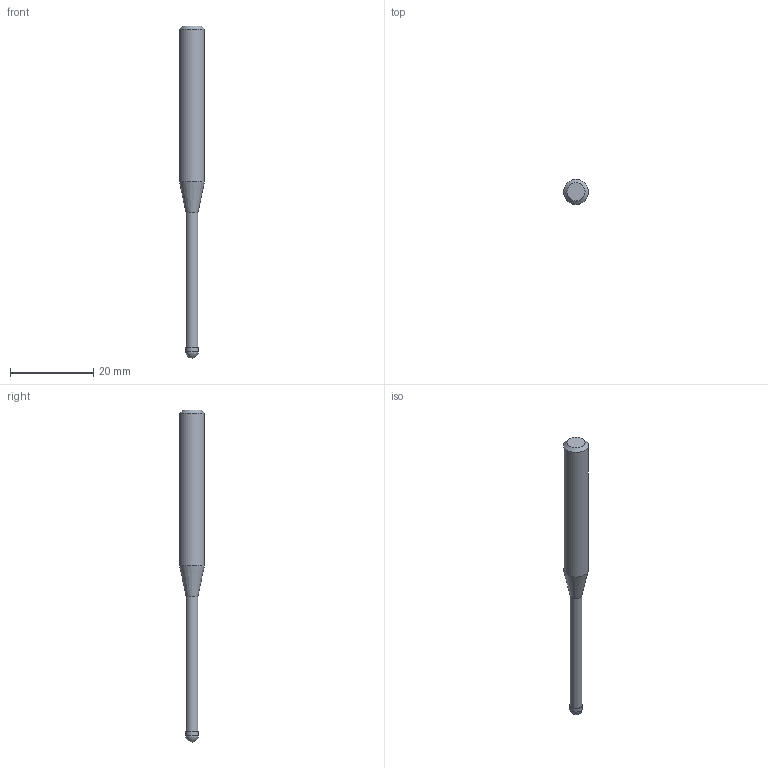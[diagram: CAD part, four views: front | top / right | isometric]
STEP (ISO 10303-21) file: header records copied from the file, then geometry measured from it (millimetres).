
FILE_DESCRIPTION((''),'2;1');
FILE_NAME('C:\Users\nsx150\AppData\Local\Temp\Mastercam 2021\ARV7HD45SN\TEMP.step','2023-06-13T16:38:37',(''),(''),'STEP Write','Mastercam 2021 ... CNC Software, Inc.','');
FILE_SCHEMA(('AUTOMOTIVE_DESIGN'));
Length unit declared in the file: millimetre
Products named in the file (1): None
Bounding box: 6 x 6 x 80 mm (x, y, z)
Volume: 1397.6 mm3; surface area: 1160.5 mm2
Topology: 2 solids, 2 shells, 9 faces, 14 edges, 8 vertices
Faces by surface type: plane 3, cylinder 3, cone 2, sphere 1
Full cylindrical faces by diameter (mm): 2.85 x1, 3 x1, 6 x1
Entity records: 211 total; most frequent: DIRECTION 36, CARTESIAN_POINT 25, AXIS2_PLACEMENT_3D 18, ORIENTED_EDGE 14, EDGE_LOOP 14, STYLED_ITEM 12, ADVANCED_FACE 9, FACE_BOUND 8
